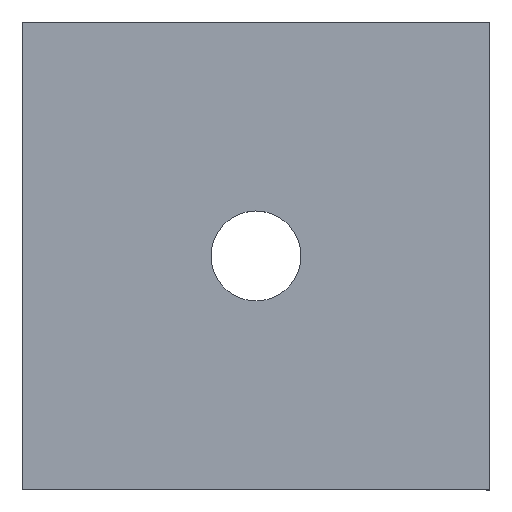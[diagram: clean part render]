
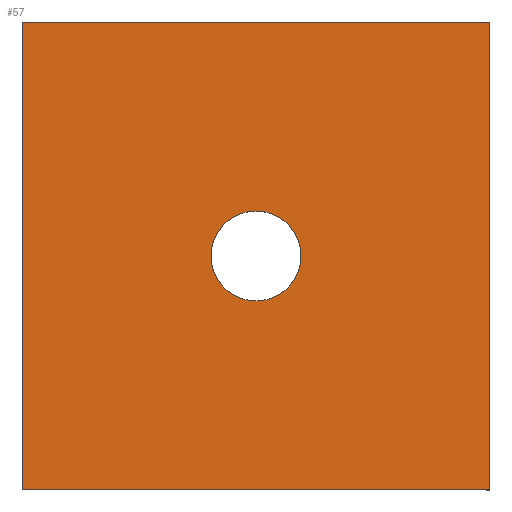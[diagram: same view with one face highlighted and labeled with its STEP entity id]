
A CAD part, top view. The second image highlights one B-rep face of the part: STEP entity #57.
In plain terms, the highlighted planar face has unit normal (0, 0, 1).
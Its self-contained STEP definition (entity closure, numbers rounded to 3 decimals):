
#57=ADVANCED_FACE('',(#73,#74),#75,.F.);
#73=FACE_BOUND('',#92,.T.);
#74=FACE_OUTER_BOUND('',#93,.T.);
#75=PLANE('',#94);
#92=EDGE_LOOP('',(#141,#142));
#93=EDGE_LOOP('',(#143,#144,#145,#146));
#94=AXIS2_PLACEMENT_3D('',#147,#148,#149);
#141=ORIENTED_EDGE('',*,*,#163,.T.);
#142=ORIENTED_EDGE('',*,*,#164,.T.);
#143=ORIENTED_EDGE('',*,*,#177,.F.);
#144=ORIENTED_EDGE('',*,*,#168,.F.);
#145=ORIENTED_EDGE('',*,*,#172,.F.);
#146=ORIENTED_EDGE('',*,*,#175,.F.);
#147=CARTESIAN_POINT('',(13.0,13.,2.));
#148=DIRECTION('',(0.,0.,-1.0));
#149=DIRECTION('',(-1.0,0.,0.0));
#163=EDGE_CURVE('',#179,#183,#185,.T.);
#164=EDGE_CURVE('',#183,#179,#186,.T.);
#168=EDGE_CURVE('',#191,#193,#194,.T.);
#172=EDGE_CURVE('',#198,#191,#200,.T.);
#175=EDGE_CURVE('',#203,#198,#205,.T.);
#177=EDGE_CURVE('',#193,#203,#207,.T.);
#179=VERTEX_POINT('',#209);
#183=VERTEX_POINT('',#214);
#185=CIRCLE('',#217,2.5);
#186=CIRCLE('',#218,2.5);
#191=VERTEX_POINT('',#224);
#193=VERTEX_POINT('',#227);
#194=LINE('',#228,#229);
#198=VERTEX_POINT('',#235);
#200=LINE('',#238,#239);
#203=VERTEX_POINT('',#243);
#205=LINE('',#246,#247);
#207=LINE('',#250,#251);
#209=CARTESIAN_POINT('',(10.5,13.,2.));
#214=CARTESIAN_POINT('',(15.5,13.,2.));
#217=AXIS2_PLACEMENT_3D('',#257,#258,#259);
#218=AXIS2_PLACEMENT_3D('',#260,#261,#262);
#224=CARTESIAN_POINT('',(0.,0.,2.));
#227=CARTESIAN_POINT('',(0.,26.,2.));
#228=CARTESIAN_POINT('',(0.,0.,2.));
#229=VECTOR('',#268,1.0);
#235=CARTESIAN_POINT('',(26.0,0.,2.));
#238=CARTESIAN_POINT('',(26.0,0.,2.));
#239=VECTOR('',#272,1.0);
#243=CARTESIAN_POINT('',(26.,26.0,2.));
#246=CARTESIAN_POINT('',(26.,26.0,2.));
#247=VECTOR('',#275,1.0);
#250=CARTESIAN_POINT('',(0.,26.,2.));
#251=VECTOR('',#277,1.0);
#257=CARTESIAN_POINT('',(13.0,13.,2.));
#258=DIRECTION('',(0.,0.,-1.0));
#259=DIRECTION('',(-1.0,0.,0.));
#260=CARTESIAN_POINT('',(13.0,13.,2.));
#261=DIRECTION('',(0.,0.,-1.0));
#262=DIRECTION('',(-1.0,0.,0.));
#268=DIRECTION('',(0.,1.0,0.));
#272=DIRECTION('',(-1.0,0.,0.0));
#275=DIRECTION('',(0.,-1.0,0.));
#277=DIRECTION('',(1.0,0.,-0.0));
